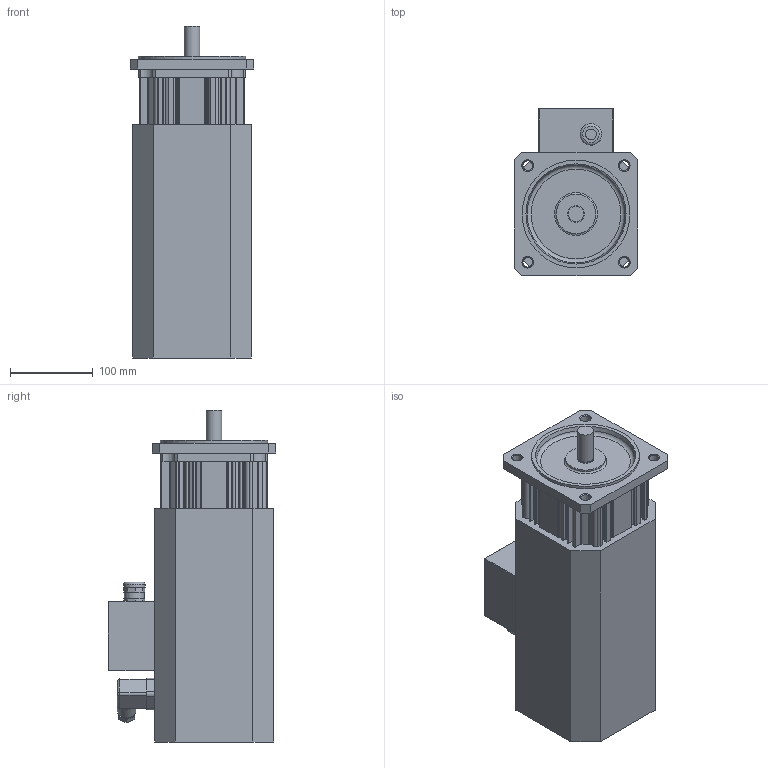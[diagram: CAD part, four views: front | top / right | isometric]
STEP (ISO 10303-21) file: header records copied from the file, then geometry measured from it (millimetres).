
FILE_DESCRIPTION(/* description */ (''),/* implementation_level */ '2;1');
FILE_NAME(/* name */ 'KSA6416_FS',/* time_stamp */ '2009-02-26T15:42:49+01:00',/* author */ (''),/* organization */ (''),/* preprocessor_version */ 'ST-DEVELOPER v8',/* originating_system */ 'UNIGRAPHICS SOLUTIONS - UNIGRAPHICS 18.0',/* authorisation */ '');
FILE_SCHEMA (('AUTOMOTIVE_DESIGN { 1 2 10303 214 0 1 1 1 }'));
Length unit declared in the file: millimetre
Products named in the file (7): 0280391350_0; 014146_0; 014145_0; LagerschAS_0; 089106X_0; Klemmenkasten_0; KSA648_FS_0
Assembly tree (6 placements, depth 3):
  KSA648_FS_0
    089106X_0
    LagerschAS_0
    Klemmenkasten_0
      0280391350_0
    014145_0
    014146_0
Bounding box: 149 x 202.35 x 401 mm (x, y, z)
Volume: 6855417.9 mm3; surface area: 482323.4 mm2
Topology: 7 solids, 7 shells, 596 faces, 1638 edges, 1069 vertices
Faces by surface type: cylinder 302, plane 262, cone 16, sphere 8, torus 4, bspline 4
Full cylindrical faces by diameter (mm): 3.2 x1, 3.5 x4, 4.5 x1, 5 x2, 6.5 x4, 13 x2, 17 x1, 18 x1, 19 x1, 20 x2, 22.5 x1, 24 x1, 26 x1, 48 x1, 119.7 x2, 122 x1, 130 x1
Entity records: 19071 total; most frequent: DIRECTION 3408, CARTESIAN_POINT 3368, ORIENTED_EDGE 3154, EDGE_CURVE 1577, AXIS2_PLACEMENT_3D 1248, VERTEX_POINT 1059, LINE 912, VECTOR 912
